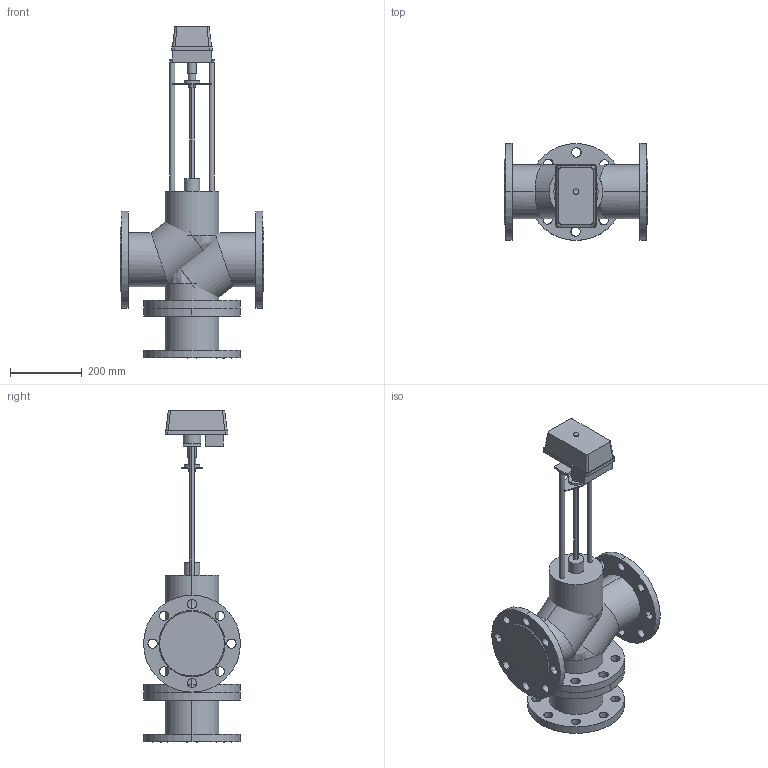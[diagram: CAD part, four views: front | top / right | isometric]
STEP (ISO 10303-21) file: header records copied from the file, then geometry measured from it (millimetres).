
FILE_DESCRIPTION(/* description */ (''),/* implementation_level */ '2;1');
FILE_NAME(/* name */ 'ТРК DN125 PN 2.5 МПа МИЭП-1 10000',/* time_stamp */ '2026-07-14T23:27:11+03:00',/* author */ (''),/* organization */ (''),/* preprocessor_version */ 'ST-DEVELOPER v20',/* originating_system */ '',/* authorisation */ '');
FILE_SCHEMA (('AP242_MANAGED_MODEL_BASED_3D_ENGINEERING_MIM_LF { 1 0 10303 442 1 1 4 }'));
Length unit declared in the file: millimetre
Products named in the file (16): TopLevelAssembly; Выдавливание; Модификатор; Модификатор_1; Выдавливание_
1; Выдавливание_
2; Вращение; Выдавливание_
3; Выдавливание_
4; Выдавливание_
5; Выдавливание_
6; Выдавливание_
7; 10000; Переход; Объемная геометрия 
присоединена; Объемная геометрия 
присоединена_1
Assembly tree (15 placements, depth 2):
  TopLevelAssembly
    Выдавливание
    Модификатор
    Модификатор_1
    Выдавливание_
1
    Выдавливание_
2
    Вращение
    Выдавливание_
3
    Выдавливание_
4
    Выдавливание_
5
    Выдавливание_
6
    Выдавливание_
7
    10000
    Переход
    Объемная геометрия 
присоединена
    Объемная геометрия 
присоединена_1
Bounding box: 400 x 270 x 925 mm (x, y, z)
Volume: 21353547.2 mm3; surface area: 1531608 mm2
Topology: 25 solids, 25 shells, 245 faces, 564 edges, 364 vertices
Faces by surface type: cylinder 144, plane 89, bspline 8, cone 4
Entity records: 7911 total; most frequent: DIRECTION 1403, CARTESIAN_POINT 1384, ORIENTED_EDGE 1112, AXIS2_PLACEMENT_3D 579, EDGE_CURVE 556, VERTEX_POINT 364, EDGE_LOOP 336, CIRCLE 303
